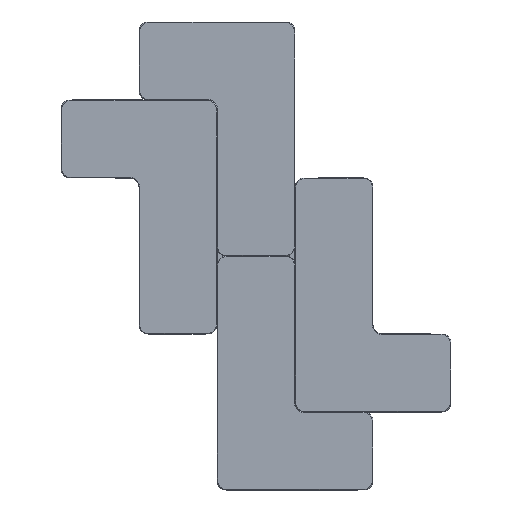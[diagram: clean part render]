
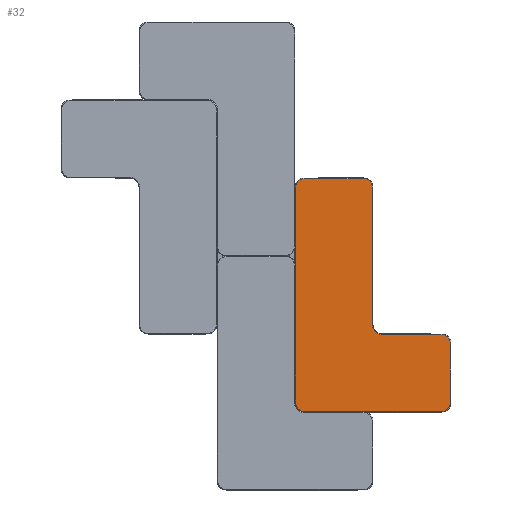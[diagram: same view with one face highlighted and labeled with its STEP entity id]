
A CAD part, top view. The second image highlights one B-rep face of the part: STEP entity #32.
In plain terms, the highlighted planar face has unit normal (0, 0, 1).
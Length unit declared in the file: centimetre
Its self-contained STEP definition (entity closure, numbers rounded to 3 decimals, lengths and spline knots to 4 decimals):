
#32=ADVANCED_FACE($,(#76),#443,.T.);
#76=FACE_OUTER_BOUND($,#120,.T.);
#120=EDGE_LOOP($,(#168,#169));
#168=ORIENTED_EDGE($,*,*,#305,.T.);
#169=ORIENTED_EDGE($,*,*,#311,.T.);
#305=EDGE_CURVE($,#374,#377,#462,.T.);
#311=EDGE_CURVE($,#377,#374,#467,.T.);
#374=VERTEX_POINT($,#926);
#377=VERTEX_POINT($,#929);
#443=PLANE($,#619);
#462=B_SPLINE_CURVE_WITH_KNOTS($,3,(#702,#703,#704,#705,#706,#707,#708,#709,
#710,#711,#712,#713,#714,#715,#716,#717,#718,#719,#720,#721,#722,#723,#724,
#725,#726),.UNSPECIFIED.,.F.,.F.,(4,3,1,3,3,1,3,3,1,3,4),(0.,23.4,
24.5392,25.7561,35.8561,36.9954,38.2122,
48.3122,49.6034,50.9825,74.3825),.UNSPECIFIED.);
#467=B_SPLINE_CURVE_WITH_KNOTS($,3,(#763,#764,#765,#766,#767,#768,#769,#770,
#771,#772,#773,#774,#775,#776,#777,#778,#779,#780,#781),.UNSPECIFIED.,.F.,
.F.,(4,1,3,3,1,3,3,1,4),(74.3825,75.5217,76.7386,
86.8386,87.9779,89.1947,125.8947,127.034,
128.2509),.UNSPECIFIED.);
#619=AXIS2_PLACEMENT_3D($,#805,#640,$);
#640=DIRECTION($,(0.,0.,1.));
#702=CARTESIAN_POINT($,(41.5,0.1,0.1));
#703=CARTESIAN_POINT($,(49.3,0.1,0.1));
#704=CARTESIAN_POINT($,(57.1,0.1,0.1));
#705=CARTESIAN_POINT($,(64.9,0.1,0.1));
#706=CARTESIAN_POINT($,(65.2799,0.0977,0.1));
#707=CARTESIAN_POINT($,(66.0621,0.4142,0.1));
#708=CARTESIAN_POINT($,(66.4031,1.1936,0.1));
#709=CARTESIAN_POINT($,(66.4,1.6,0.1));
#710=CARTESIAN_POINT($,(66.4,4.9667,0.1));
#711=CARTESIAN_POINT($,(66.4,8.3334,0.1));
#712=CARTESIAN_POINT($,(66.4,11.7,0.1));
#713=CARTESIAN_POINT($,(66.4023,12.08,0.1));
#714=CARTESIAN_POINT($,(66.0859,12.8621,0.1));
#715=CARTESIAN_POINT($,(65.3064,13.2031,0.1));
#716=CARTESIAN_POINT($,(64.9,13.2,0.1));
#717=CARTESIAN_POINT($,(61.5333,13.2,0.1));
#718=CARTESIAN_POINT($,(58.1667,13.2,0.1));
#719=CARTESIAN_POINT($,(54.8,13.2,0.1));
#720=CARTESIAN_POINT($,(54.3694,13.1974,0.1));
#721=CARTESIAN_POINT($,(53.483,13.556,0.1));
#722=CARTESIAN_POINT($,(53.0965,14.4394,0.1));
#723=CARTESIAN_POINT($,(53.1,14.9,0.1));
#724=CARTESIAN_POINT($,(53.1,22.7,0.1));
#725=CARTESIAN_POINT($,(53.1,30.5,0.1));
#726=CARTESIAN_POINT($,(53.1,38.3,0.1));
#763=CARTESIAN_POINT($,(53.1,38.3,0.1));
#764=CARTESIAN_POINT($,(53.1023,38.68,0.1));
#765=CARTESIAN_POINT($,(52.7859,39.4621,0.1));
#766=CARTESIAN_POINT($,(52.0064,39.8031,0.1));
#767=CARTESIAN_POINT($,(51.6,39.8,0.1));
#768=CARTESIAN_POINT($,(48.2333,39.8,0.1));
#769=CARTESIAN_POINT($,(44.8667,39.8,0.1));
#770=CARTESIAN_POINT($,(41.5,39.8,0.1));
#771=CARTESIAN_POINT($,(41.1201,39.8023,0.1));
#772=CARTESIAN_POINT($,(40.3379,39.4859,0.1));
#773=CARTESIAN_POINT($,(39.9969,38.7064,0.1));
#774=CARTESIAN_POINT($,(40.,38.3,0.1));
#775=CARTESIAN_POINT($,(40.,26.0667,0.1));
#776=CARTESIAN_POINT($,(40.,13.8334,0.1));
#777=CARTESIAN_POINT($,(40.,1.6,0.1));
#778=CARTESIAN_POINT($,(39.9977,1.2201,0.1));
#779=CARTESIAN_POINT($,(40.3141,0.4379,0.1));
#780=CARTESIAN_POINT($,(41.0936,0.0969,0.1));
#781=CARTESIAN_POINT($,(41.5,0.1,0.1));
#805=CARTESIAN_POINT($,(39.9,39.9,0.1));
#926=CARTESIAN_POINT($,(41.5,0.1,0.1));
#929=CARTESIAN_POINT($,(53.1,38.3,0.1));
